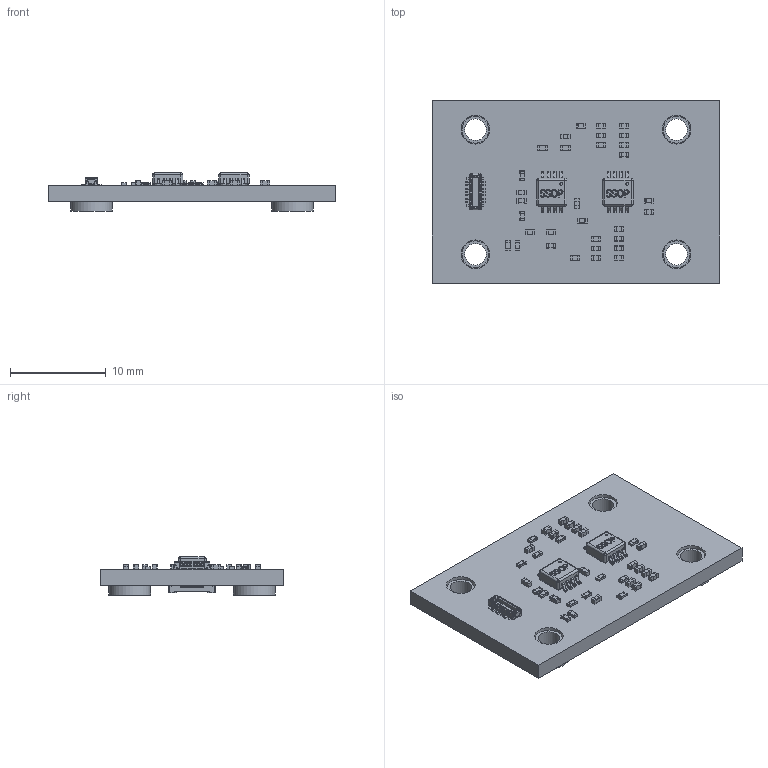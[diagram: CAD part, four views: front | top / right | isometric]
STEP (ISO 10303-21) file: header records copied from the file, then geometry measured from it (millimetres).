
FILE_DESCRIPTION(('Open CASCADE Model'),'2;1');
FILE_NAME('Open CASCADE Shape Model','2023-05-15T14:57:05',('Author'),( 'Open CASCADE'),'Open CASCADE STEP processor 6.8','Open CASCADE 6.8' ,'Unknown');
FILE_SCHEMA(('AUTOMOTIVE_DESIGN { 1 0 10303 214 1 1 1 1 }'));
Length unit declared in the file: millimetre
Products named in the file (51): PCB; Board; Open CASCADE STEP translator 6.8 2.1.1; R12; User_Library-res0402-1; C18; User_Library-cap_0402; C17; C16; C15; C14; C13; C12; C11; C10; C9; C8; R2; R1; C7; C6; C5; C4; C3; R13; U2; SSOP-8; U1; R14; R11; R10; R9; R8; R7; R6; R5; R4; R3; C2; C1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
Assembly tree (84 placements, depth 4):
  PCB
    Board
      Open CASCADE STEP translator 6.8 2.1.1
    R12
      User_Library-res0402-1
    C18
      User_Library-cap_0402
    C17
      User_Library-cap_0402
    C16
      User_Library-cap_0402
    C15
      User_Library-cap_0402
    C14
      User_Library-cap_0402
    C13
      User_Library-cap_0402
    C12
      User_Library-cap_0402
    C11
      User_Library-cap_0402
    C10
      User_Library-cap_0402
    C9
      User_Library-cap_0402
    C8
      User_Library-cap_0402
    R2
      User_Library-res0402-1
    R1
      User_Library-res0402-1
    C7
      User_Library-cap_0402
    C6
      User_Library-cap_0402
    C5
      User_Library-cap_0402
    C4
      User_Library-cap_0402
    C3
      User_Library-cap_0402
    R13
      User_Library-res0402-1
    U2
      SSOP-8
    U1
      SSOP-8
    R14
      User_Library-res0402-1
    R11
      User_Library-res0402-1
    R10
      User_Library-res0402-1
    R9
      User_Library-res0402-1
    R8
      User_Library-res0402-1
    R7
      User_Library-res0402-1
    R6
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Bounding box: 30 x 19 x 3.98 mm (x, y, z)
Volume: 997.3 mm3; surface area: 1796.3 mm2
Topology: 41 solids, 41 shells, 3823 faces, 10022 edges, 6184 vertices
Faces by surface type: plane 2479, cylinder 978, sphere 148, bspline 134, cone 56, torus 28
Full cylindrical faces by diameter (mm): 2.25 x4, 2.8 x4, 3 x4, 4.35 x4
Entity records: 92555 total; most frequent: CARTESIAN_POINT 14425, ORIENTED_EDGE 12928, DIRECTION 12344, EDGE_CURVE 6464, LINE 5012, VECTOR 5012, VERTEX_POINT 4118, AXIS2_PLACEMENT_3D 3666
